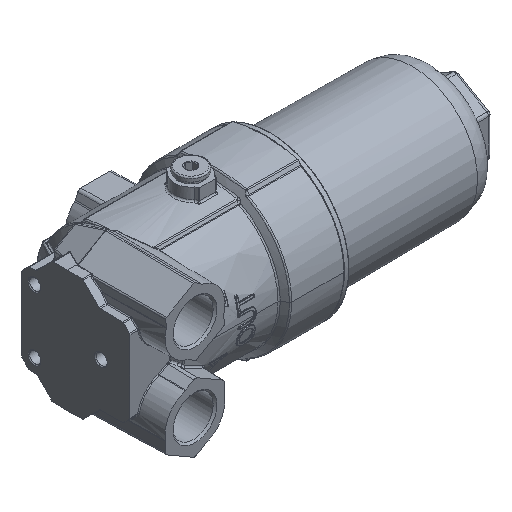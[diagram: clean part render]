
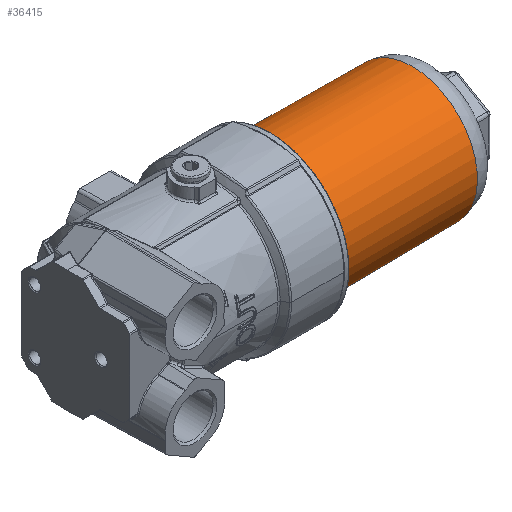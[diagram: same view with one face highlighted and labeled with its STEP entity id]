
A CAD part, isometric view. The second image highlights one B-rep face of the part: STEP entity #36415.
In plain terms, the highlighted free-form (B-spline) face has degree [2, 1] with [7, 2] control points.
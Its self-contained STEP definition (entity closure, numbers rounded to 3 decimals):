
#36328=CARTESIAN_POINT('V1100',(114.51,0.,
   39.254));
#36329=VERTEX_POINT('V1100',#36328);
#36345=CARTESIAN_POINT('E1985',(114.51,0.,
   39.254));
#36346=CARTESIAN_POINT('E1985',(114.51,
   67.99,39.254));
#36347=CARTESIAN_POINT('E1985',(114.51,
   33.995,-19.627));
#36348=CARTESIAN_POINT('E1985',(114.51,0.,
   -78.508));
#36349=CARTESIAN_POINT('E1985',(114.51,
   -33.995,-19.627));
#36350=CARTESIAN_POINT('E1985',(114.51,
   -67.99,39.254));
#36351=CARTESIAN_POINT('E1985',(114.51,0.,
   39.254));
#36359=(BOUNDED_CURVE()B_SPLINE_CURVE(2,(#36345,#36346,#36347,
   #36348,#36349,#36350,#36351),.CIRCULAR_ARC.,.T.,.U.)
   B_SPLINE_CURVE_WITH_KNOTS((3,2,2,3),(0.0,1.643,
   3.286,4.929),.UNSPECIFIED.)CURVE()
   GEOMETRIC_REPRESENTATION_ITEM()RATIONAL_B_SPLINE_CURVE((1.0,
   0.5,1.0,0.5,1.0,0.5,1.0)
   )REPRESENTATION_ITEM('E1985'));
#36360=EDGE_CURVE('E1985',#36329,#36329,#36359,.T.);
#36365=CARTESIAN_POINT('F834',(114.51,0.,
   39.254));
#36366=CARTESIAN_POINT('F834',(114.51,
   67.99,39.254));
#36367=CARTESIAN_POINT('F834',(114.51,
   33.995,-19.627));
#36368=CARTESIAN_POINT('F834',(114.51,0.,
   -78.508));
#36369=CARTESIAN_POINT('F834',(114.51,
   -33.995,-19.627));
#36370=CARTESIAN_POINT('F834',(114.51,
   -67.99,39.254));
#36371=CARTESIAN_POINT('F834',(114.51,0.,
   39.254));
#36372=CARTESIAN_POINT('F834',(30.983,0.,
   39.983));
#36373=CARTESIAN_POINT('F834',(30.983,69.252,
   39.983));
#36374=CARTESIAN_POINT('F834',(30.983,34.626,
   -19.991));
#36375=CARTESIAN_POINT('F834',(30.983,0.,
   -79.965));
#36376=CARTESIAN_POINT('F834',(30.983,
   -34.626,-19.991));
#36377=CARTESIAN_POINT('F834',(30.983,
   -69.252,39.983));
#36378=CARTESIAN_POINT('F834',(30.983,0.,
   39.983));
#36386=(BOUNDED_SURFACE()B_SPLINE_SURFACE(2,1,((#36365,#36372),(
   #36366,#36373),(#36367,#36374),(#36368,#36375),(#36369,
   #36376),(#36370,#36377),(#36371,#36378)),.CONICAL_SURF.,.T.,
   .F.,.U.)B_SPLINE_SURFACE_WITH_KNOTS((3,2,2,3),(2,2),(0.0,
   1.643,3.286,4.929),(0.0,1.0),
   .UNSPECIFIED.)GEOMETRIC_REPRESENTATION_ITEM()
   RATIONAL_B_SPLINE_SURFACE(((1.0,1.0),(0.5,
   0.5),(1.0,1.0),(0.5,
   0.5),(1.0,1.0),(0.5,
   0.5),(1.0,1.0)))REPRESENTATION_ITEM('F834')
   SURFACE());
#36387=CARTESIAN_POINT('V1102',(30.983,0.,
   39.983));
#36388=VERTEX_POINT('V1102',#36387);
#36389=CARTESIAN_POINT('E1986',(30.983,0.,
   39.983));
#36390=CARTESIAN_POINT('E1986',(114.51,0.,
   39.254));
#36391=QUASI_UNIFORM_CURVE('E1986',1,(#36389,#36390),.POLYLINE_FORM.,
   .F.,.U.);
#36392=EDGE_CURVE('E1986',#36388,#36329,#36391,.T.);
#36393=ORIENTED_EDGE('E1986',*,*,#36392,.T.);
#36394=ORIENTED_EDGE('F833',*,*,#36360,.T.);
#36395=ORIENTED_EDGE('E1986',*,*,#36392,.F.);
#36396=CARTESIAN_POINT('E1987',(30.983,0.,
   39.983));
#36397=CARTESIAN_POINT('E1987',(30.983,
   -69.252,39.983));
#36398=CARTESIAN_POINT('E1987',(30.983,
   -34.626,-19.991));
#36399=CARTESIAN_POINT('E1987',(30.983,0.,
   -79.965));
#36400=CARTESIAN_POINT('E1987',(30.983,
   34.626,-19.991));
#36401=CARTESIAN_POINT('E1987',(30.983,
   69.252,39.983));
#36402=CARTESIAN_POINT('E1987',(30.983,0.,
   39.983));
#36410=(BOUNDED_CURVE()B_SPLINE_CURVE(2,(#36396,#36397,#36398,
   #36399,#36400,#36401,#36402),.CIRCULAR_ARC.,.T.,.U.)
   B_SPLINE_CURVE_WITH_KNOTS((3,2,2,3),(0.0,35.447,
   70.893,106.34),.UNSPECIFIED.)CURVE()
   GEOMETRIC_REPRESENTATION_ITEM()RATIONAL_B_SPLINE_CURVE((1.0,
   0.5,1.0,0.5,1.0,0.5,1.0)
   )REPRESENTATION_ITEM('E1987'));
#36411=EDGE_CURVE('E1987',#36388,#36388,#36410,.T.);
#36412=ORIENTED_EDGE('E1987',*,*,#36411,.T.);
#36413=EDGE_LOOP('F834',(#36393,#36394,#36395,#36412));
#36414=FACE_OUTER_BOUND('F834',#36413,.T.);
#36415=ADVANCED_FACE('F834',(#36414),#36386,.T.);
